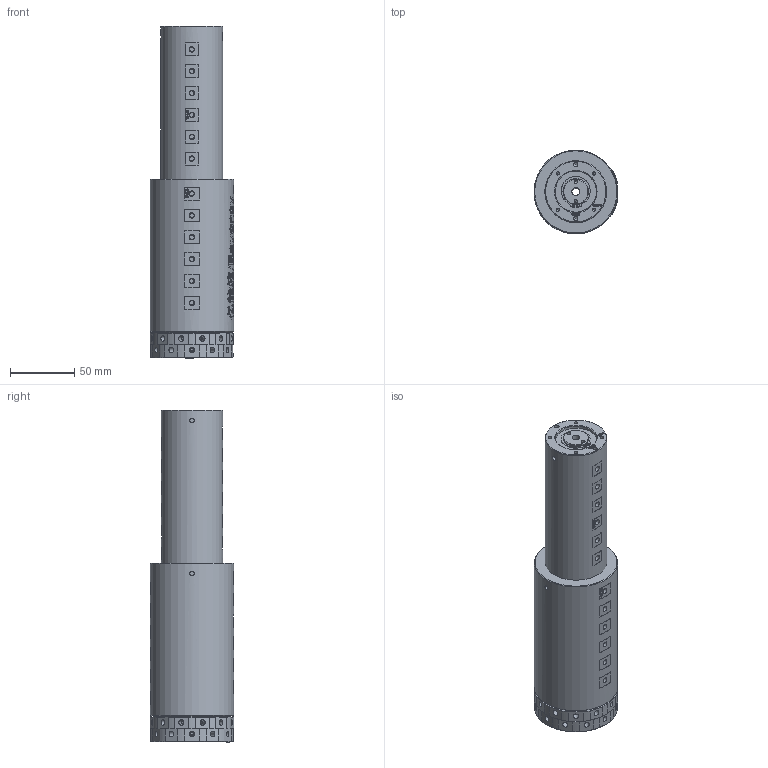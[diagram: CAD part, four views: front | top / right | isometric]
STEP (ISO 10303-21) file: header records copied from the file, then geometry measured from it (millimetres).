
FILE_DESCRIPTION(/* description */ (''),/* implementation_level */ '2;1');
FILE_NAME(/* name */ 'YQ24005-3D模型.stp',/* time_stamp */ '2025-09-06T08:54:06+08:00',/* author */ (''),/* organization */ (''),/* preprocessor_version */ 'ST-DEVELOPER v16.7',/* originating_system */ 'SIEMENS PLM Software NX 12.0',/* authorisation */ '');
FILE_SCHEMA (('AUTOMOTIVE_DESIGN { 1 0 10303 214 3 1 1 1 }'));
Products named in the file (1): Admi17CC972A545w
Bounding box: 65.32 x 65 x 258.4 mm (x, y, z)
Volume: 653029.6 mm3; surface area: 78938.8 mm2
Topology: 1 solids, 1 shells, 1852 faces, 4862 edges, 3261 vertices
Faces by surface type: plane 803, extrusion 683, cylinder 271, bspline 64, cone 31
Full cylindrical faces by diameter (mm): 1.5 x2, 2.5 x6, 2.994 x6, 3 x36, 3.006 x6, 3.3 x24, 3.4 x35, 3.5 x24, 4.2 x49, 6 x1, 19 x1, 19.997 x1, 32.03 x1, 44 x1, 48 x1, 65 x1
Entity records: 67188 total; most frequent: CARTESIAN_POINT 28400, ORIENTED_EDGE 8948, DIRECTION 5214, EDGE_CURVE 4474, B_SPLINE_CURVE_WITH_KNOTS 3529, VERTEX_POINT 3110, EDGE_LOOP 2350, ADVANCED_FACE 1852
